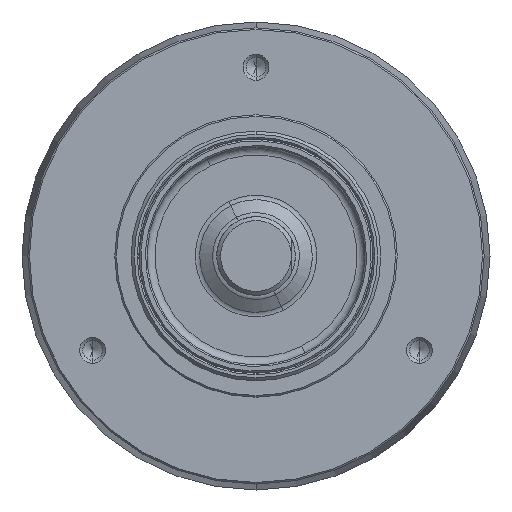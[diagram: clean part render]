
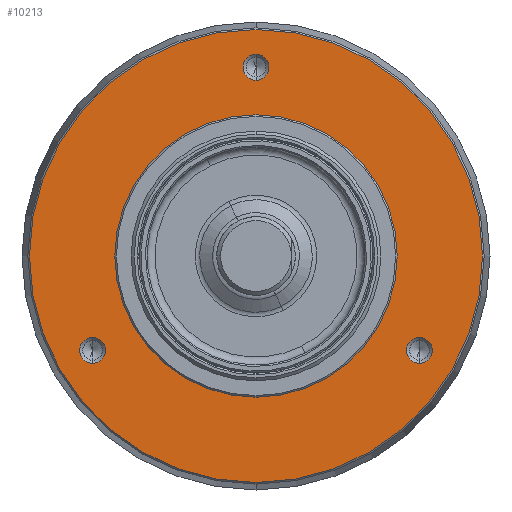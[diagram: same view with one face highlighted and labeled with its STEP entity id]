
A CAD part, front view. The second image highlights one B-rep face of the part: STEP entity #10213.
In plain terms, the highlighted planar face has unit normal (0, -1, 0).
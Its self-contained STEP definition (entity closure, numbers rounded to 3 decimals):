
#163 = DIRECTION ( 'NONE',  ( 0., -1., 0. ) ) ;
#188 = FACE_OUTER_BOUND ( 'NONE', #13506, .T. ) ;
#249 = CARTESIAN_POINT ( 'NONE',  ( -20.785, 10., -12. ) ) ;
#362 = CIRCLE ( 'NONE', #5618, 1.65 ) ;
#557 = DIRECTION ( 'NONE',  ( 0., 0., 1. ) ) ;
#604 = VERTEX_POINT ( 'NONE', #4190 ) ;
#788 = ORIENTED_EDGE ( 'NONE', *, *, #4504, .F. ) ;
#1022 = CIRCLE ( 'NONE', #13195, 28.8 ) ;
#1085 = FACE_BOUND ( 'NONE', #9399, .T. ) ;
#1703 = VERTEX_POINT ( 'NONE', #3590 ) ;
#2124 = CIRCLE ( 'NONE', #6956, 1.65 ) ;
#2156 = VERTEX_POINT ( 'NONE', #6745 ) ;
#2165 = CARTESIAN_POINT ( 'NONE',  ( 29., 10., 0. ) ) ;
#2237 = AXIS2_PLACEMENT_3D ( 'NONE', #9440, #3153, #2251 ) ;
#2251 = DIRECTION ( 'NONE',  ( 0., 0., 1. ) ) ;
#2298 = CIRCLE ( 'NONE', #2734, 1.65 ) ;
#2303 = AXIS2_PLACEMENT_3D ( 'NONE', #8285, #10205, #13375 ) ;
#2612 = ORIENTED_EDGE ( 'NONE', *, *, #4150, .F. ) ;
#2734 = AXIS2_PLACEMENT_3D ( 'NONE', #10527, #12795, #7664 ) ;
#2978 = DIRECTION ( 'NONE',  ( 0., 1., 0. ) ) ;
#3042 = AXIS2_PLACEMENT_3D ( 'NONE', #4271, #2978, #7236 ) ;
#3153 = DIRECTION ( 'NONE',  ( 0., 1., 0. ) ) ;
#3543 = VERTEX_POINT ( 'NONE', #12503 ) ;
#3590 = CARTESIAN_POINT ( 'NONE',  ( 20.785, 10., -13.65 ) ) ;
#3605 = VERTEX_POINT ( 'NONE', #5643 ) ;
#3786 = DIRECTION ( 'NONE',  ( 0., 0., -1. ) ) ;
#4137 = ORIENTED_EDGE ( 'NONE', *, *, #10425, .T. ) ;
#4150 = EDGE_CURVE ( 'NONE', #1703, #5810, #12052, .T. ) ;
#4164 = FACE_BOUND ( 'NONE', #9104, .T. ) ;
#4190 = CARTESIAN_POINT ( 'NONE',  ( 0., 10., -17.7 ) ) ;
#4271 = CARTESIAN_POINT ( 'NONE',  ( 0., 10., 0. ) ) ;
#4312 = EDGE_LOOP ( 'NONE', ( #2612, #788 ) ) ;
#4369 = CARTESIAN_POINT ( 'NONE',  ( 20.785, 10., -10.35 ) ) ;
#4424 = DIRECTION ( 'NONE',  ( 0., -1., 0. ) ) ;
#4504 = EDGE_CURVE ( 'NONE', #5810, #1703, #2298, .T. ) ;
#4959 = ORIENTED_EDGE ( 'NONE', *, *, #5112, .F. ) ;
#5112 = EDGE_CURVE ( 'NONE', #13074, #8111, #362, .T. ) ;
#5220 = VERTEX_POINT ( 'NONE', #8448 ) ;
#5433 = CARTESIAN_POINT ( 'NONE',  ( -20.785, 10., -12. ) ) ;
#5618 = AXIS2_PLACEMENT_3D ( 'NONE', #249, #4424, #8575 ) ;
#5643 = CARTESIAN_POINT ( 'NONE',  ( 0., 10., -28.8 ) ) ;
#5810 = VERTEX_POINT ( 'NONE', #4369 ) ;
#6173 = EDGE_LOOP ( 'NONE', ( #9785, #9122 ) ) ;
#6287 = FACE_BOUND ( 'NONE', #6173, .T. ) ;
#6295 = ORIENTED_EDGE ( 'NONE', *, *, #12335, .T. ) ;
#6387 = ORIENTED_EDGE ( 'NONE', *, *, #7158, .T. ) ;
#6419 = EDGE_CURVE ( 'NONE', #8111, #13074, #7166, .T. ) ;
#6428 = VERTEX_POINT ( 'NONE', #7567 ) ;
#6435 = DIRECTION ( 'NONE',  ( 0., 1., 0. ) ) ;
#6745 = CARTESIAN_POINT ( 'NONE',  ( 0., 10., 28.8 ) ) ;
#6904 = CARTESIAN_POINT ( 'NONE',  ( 0., 10., 24. ) ) ;
#6956 = AXIS2_PLACEMENT_3D ( 'NONE', #6904, #10108, #7802 ) ;
#7150 = CARTESIAN_POINT ( 'NONE',  ( -20.785, 10., -10.35 ) ) ;
#7158 = EDGE_CURVE ( 'NONE', #604, #6428, #8916, .T. ) ;
#7166 = CIRCLE ( 'NONE', #12560, 1.65 ) ;
#7236 = DIRECTION ( 'NONE',  ( 0., 0., 1. ) ) ;
#7332 = FACE_BOUND ( 'NONE', #4312, .T. ) ;
#7567 = CARTESIAN_POINT ( 'NONE',  ( 0., 10., 17.7 ) ) ;
#7596 = CIRCLE ( 'NONE', #9985, 1.65 ) ;
#7664 = DIRECTION ( 'NONE',  ( 0., 0., -1. ) ) ;
#7802 = DIRECTION ( 'NONE',  ( 0., 0., -1. ) ) ;
#7868 = CARTESIAN_POINT ( 'NONE',  ( 0., 10., 0. ) ) ;
#7931 = CIRCLE ( 'NONE', #2237, 17.7 ) ;
#7963 = CARTESIAN_POINT ( 'NONE',  ( 0., 10., 24. ) ) ;
#8111 = VERTEX_POINT ( 'NONE', #7150 ) ;
#8285 = CARTESIAN_POINT ( 'NONE',  ( 0., 10., 0. ) ) ;
#8448 = CARTESIAN_POINT ( 'NONE',  ( 0., 10., 22.35 ) ) ;
#8544 = CARTESIAN_POINT ( 'NONE',  ( -20.785, 10., -13.65 ) ) ;
#8575 = DIRECTION ( 'NONE',  ( 0., 0., -1. ) ) ;
#8916 = CIRCLE ( 'NONE', #3042, 17.7 ) ;
#9006 = DIRECTION ( 'NONE',  ( 0., -1., 0. ) ) ;
#9104 = EDGE_LOOP ( 'NONE', ( #4959, #10664 ) ) ;
#9122 = ORIENTED_EDGE ( 'NONE', *, *, #12908, .F. ) ;
#9304 = CIRCLE ( 'NONE', #2303, 28.8 ) ;
#9399 = EDGE_LOOP ( 'NONE', ( #4137, #6387 ) ) ;
#9440 = CARTESIAN_POINT ( 'NONE',  ( 0., 10., 0. ) ) ;
#9463 = AXIS2_PLACEMENT_3D ( 'NONE', #11049, #9006, #13150 ) ;
#9634 = DIRECTION ( 'NONE',  ( 0., 0., 1. ) ) ;
#9785 = ORIENTED_EDGE ( 'NONE', *, *, #13323, .F. ) ;
#9882 = AXIS2_PLACEMENT_3D ( 'NONE', #2165, #6435, #9634 ) ;
#9919 = DIRECTION ( 'NONE',  ( 0., -1., 0. ) ) ;
#9985 = AXIS2_PLACEMENT_3D ( 'NONE', #7963, #12094, #3786 ) ;
#10108 = DIRECTION ( 'NONE',  ( 0., -1., 0. ) ) ;
#10205 = DIRECTION ( 'NONE',  ( 0., -1., 0. ) ) ;
#10213 = ADVANCED_FACE ( 'NONE', ( #6287, #7332, #4164, #188, #1085 ), #11519, .F. ) ;
#10425 = EDGE_CURVE ( 'NONE', #6428, #604, #7931, .T. ) ;
#10527 = CARTESIAN_POINT ( 'NONE',  ( 20.785, 10., -12. ) ) ;
#10664 = ORIENTED_EDGE ( 'NONE', *, *, #6419, .F. ) ;
#10753 = DIRECTION ( 'NONE',  ( 0., 0., -1. ) ) ;
#10823 = ORIENTED_EDGE ( 'NONE', *, *, #12582, .T. ) ;
#11049 = CARTESIAN_POINT ( 'NONE',  ( 20.785, 10., -12. ) ) ;
#11519 = PLANE ( 'NONE',  #9882 ) ;
#12052 = CIRCLE ( 'NONE', #9463, 1.65 ) ;
#12094 = DIRECTION ( 'NONE',  ( 0., -1., 0. ) ) ;
#12335 = EDGE_CURVE ( 'NONE', #3605, #2156, #9304, .T. ) ;
#12503 = CARTESIAN_POINT ( 'NONE',  ( 0., 10., 25.65 ) ) ;
#12560 = AXIS2_PLACEMENT_3D ( 'NONE', #5433, #163, #10753 ) ;
#12582 = EDGE_CURVE ( 'NONE', #2156, #3605, #1022, .T. ) ;
#12795 = DIRECTION ( 'NONE',  ( 0., -1., 0. ) ) ;
#12908 = EDGE_CURVE ( 'NONE', #3543, #5220, #7596, .T. ) ;
#13074 = VERTEX_POINT ( 'NONE', #8544 ) ;
#13150 = DIRECTION ( 'NONE',  ( 0., 0., -1. ) ) ;
#13195 = AXIS2_PLACEMENT_3D ( 'NONE', #7868, #9919, #557 ) ;
#13323 = EDGE_CURVE ( 'NONE', #5220, #3543, #2124, .T. ) ;
#13375 = DIRECTION ( 'NONE',  ( 0., 0., 1. ) ) ;
#13506 = EDGE_LOOP ( 'NONE', ( #10823, #6295 ) ) ;
